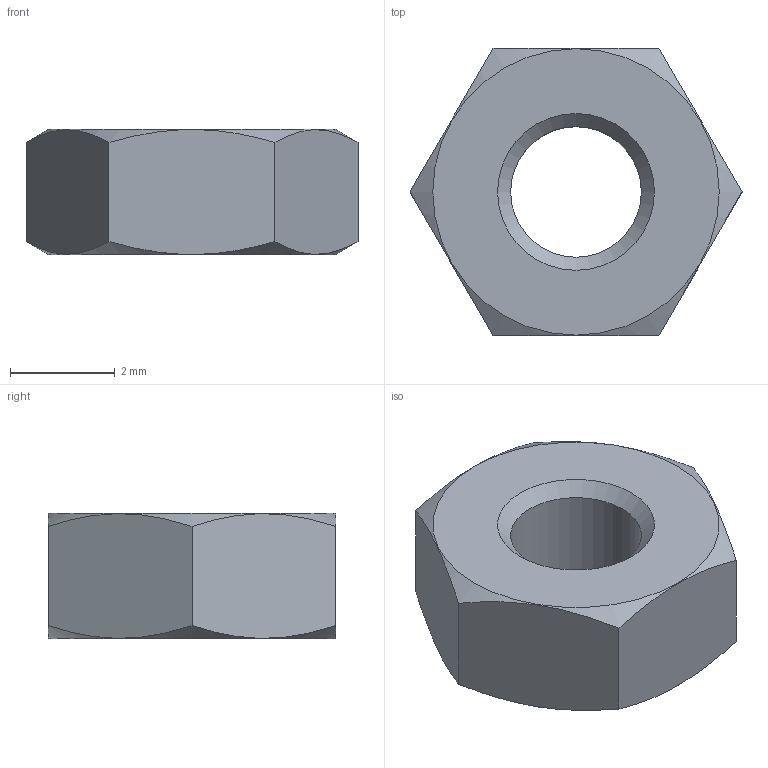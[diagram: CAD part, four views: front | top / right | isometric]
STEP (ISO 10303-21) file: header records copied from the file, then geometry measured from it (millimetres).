
FILE_DESCRIPTION( ( 'Unknown' ), '1' );
FILE_NAME( 'E:/-=Projekty=-/Projekty PKM/Solid Edge Standard Parts/nakrętki 4032/M3_PN-EN-ISO 4032_2004.stp', 'Unknown', ( 'Unknown' ), ( 'Unknown' ), 'PSStep 14.0', 'Unknown', ' ' );
FILE_SCHEMA( ( 'AUTOMOTIVE_DESIGN { 1 0 10303 214 1 1 1 1 }' ) );
Length unit declared in the file: millimetre
Products named in the file (1): 1
Bounding box: 6.35 x 5.5 x 2.4 mm (x, y, z)
Volume: 50.2 mm3; surface area: 102.4 mm2
Topology: 1 solids, 1 shells, 13 faces, 29 edges, 18 vertices
Faces by surface type: plane 8, cone 4, cylinder 1
Full cylindrical faces by diameter (mm): 2.5 x1
Entity records: 524 total; most frequent: CARTESIAN_POINT 148, ORIENTED_EDGE 48, DIRECTION 46, EDGE_CURVE 24, AXIS2_PLACEMENT_3D 20, EDGE_LOOP 20, VERTEX_POINT 18, FACE_OUTER_BOUND 14
